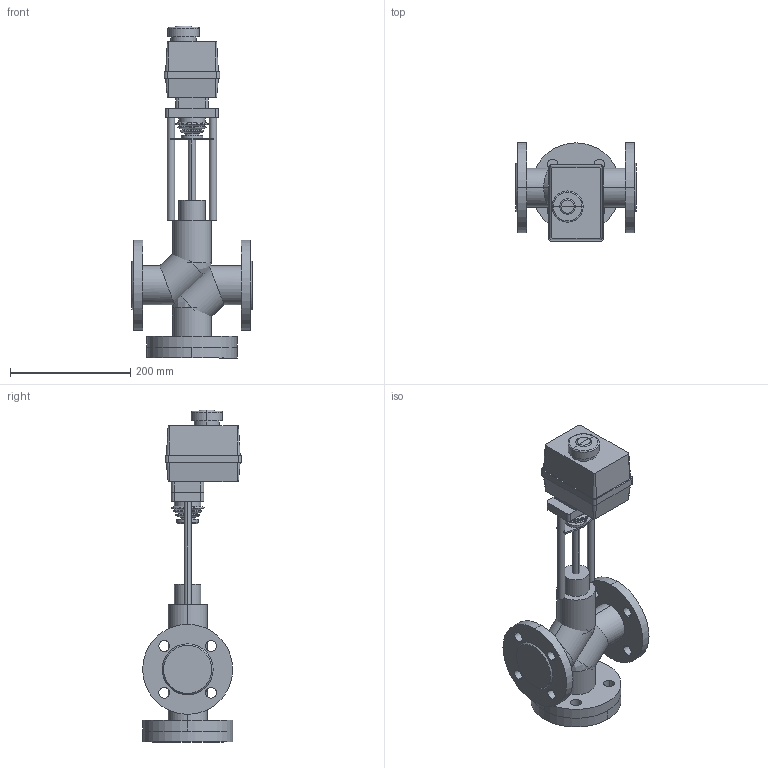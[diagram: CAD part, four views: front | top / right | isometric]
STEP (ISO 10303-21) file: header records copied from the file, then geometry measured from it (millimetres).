
FILE_DESCRIPTION(/* description */ (''),/* implementation_level */ '2;1');
FILE_NAME(/* name */ 'ТРК DN40 PN 2.5 МПа Regada ST0',/* time_stamp */ '2026-07-14T23:17:36+03:00',/* author */ (''),/* organization */ (''),/* preprocessor_version */ 'ST-DEVELOPER v20',/* originating_system */ '',/* authorisation */ '');
FILE_SCHEMA (('AP242_MANAGED_MODEL_BASED_3D_ENGINEERING_MIM_LF { 1 0 10303 442 1 1 4 }'));
Length unit declared in the file: millimetre
Products named in the file (14): TopLevelAssembly; Выдавливание; Модификатор; Модификатор_1; Выдавливание_
1; Выдавливание_
2; Вращение; Выдавливание_
3; Выдавливание_
4; Привод_Regada ST 0; Переход; Объемная геометрия 
присоединена; Полый Выдавливание; Объемная геометрия 
присоединена_1
Assembly tree (13 placements, depth 2):
  TopLevelAssembly
    Выдавливание
    Модификатор
    Модификатор_1
    Выдавливание_
1
    Выдавливание_
2
    Вращение
    Выдавливание_
3
    Выдавливание_
4
    Привод_Regada ST 0
    Переход
    Объемная геометрия 
присоединена
    Полый Выдавливание
    Объемная геометрия 
присоединена_1
Bounding box: 200 x 164.51 x 552.99 mm (x, y, z)
Volume: 3717241.3 mm3; surface area: 487040.2 mm2
Topology: 24 solids, 24 shells, 210 faces, 440 edges, 272 vertices
Faces by surface type: plane 88, cylinder 82, bspline 28, cone 12
Entity records: 6449 total; most frequent: CARTESIAN_POINT 1373, DIRECTION 1078, ORIENTED_EDGE 864, AXIS2_PLACEMENT_3D 437, EDGE_CURVE 432, VERTEX_POINT 272, EDGE_LOOP 240, CIRCLE 220
